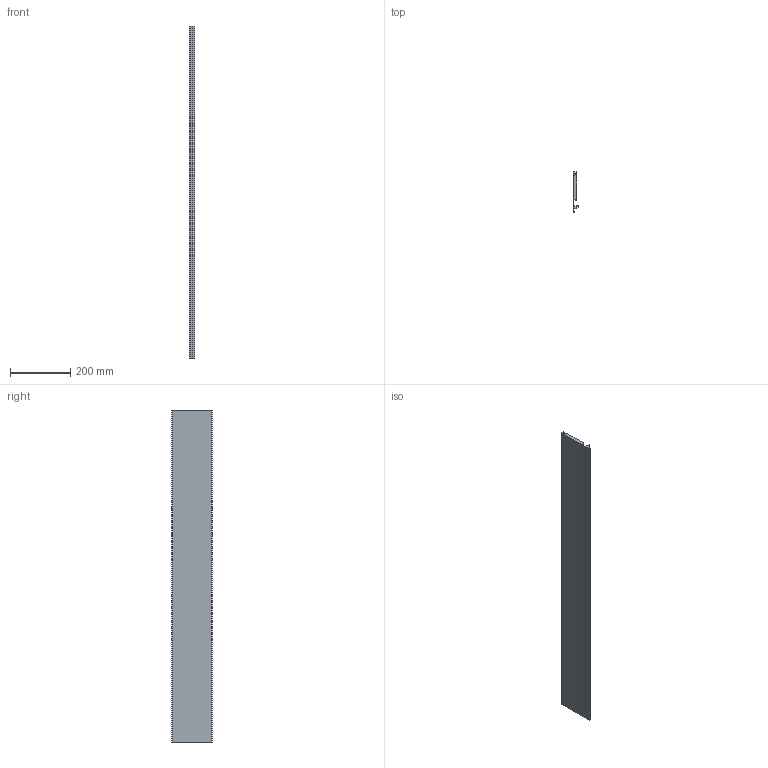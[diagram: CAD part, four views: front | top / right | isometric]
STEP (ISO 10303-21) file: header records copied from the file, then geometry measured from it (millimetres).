
FILE_DESCRIPTION (( 'STEP AP203' ), '1' );
FILE_NAME ('HT10022.STEP', '2021-03-30T00:59:39', ( 'Users' ), ( 'Microsoft' ), 'SwSTEP 2.0', 'SolidWorks 2018', '' );
FILE_SCHEMA (( 'CONFIG_CONTROL_DESIGN' ));
Length unit declared in the file: millimetre
Products named in the file (1): HT10022
Bounding box: 18.1 x 132.7 x 1100 mm (x, y, z)
Volume: 1238876.9 mm3; surface area: 372222.4 mm2
Topology: 1 solids, 1 shells, 40 faces, 114 edges, 76 vertices
Faces by surface type: plane 22, cylinder 18
Entity records: 1391 total; most frequent: DIRECTION 232, CARTESIAN_POINT 231, ORIENTED_EDGE 228, EDGE_CURVE 114, LINE 78, VECTOR 78, AXIS2_PLACEMENT_3D 77, VERTEX_POINT 76
